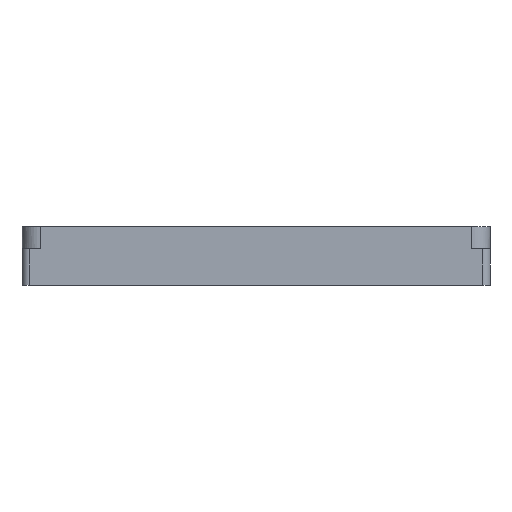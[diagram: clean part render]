
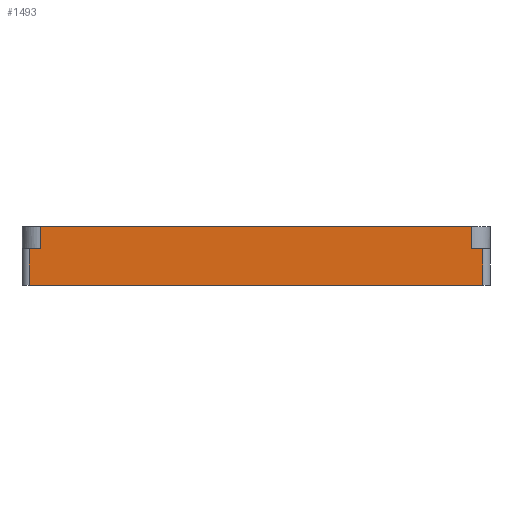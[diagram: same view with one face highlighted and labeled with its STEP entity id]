
A CAD part, left-side view. The second image highlights one B-rep face of the part: STEP entity #1493.
In plain terms, the highlighted planar face has unit normal (-1, 0, 0).
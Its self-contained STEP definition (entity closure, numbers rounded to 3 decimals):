
#44 = PLANE('',#45);
#45 = AXIS2_PLACEMENT_3D('',#46,#47,#48);
#46 = CARTESIAN_POINT('',(-44.,-85.,122.));
#47 = DIRECTION('',(-0.,-0.,1.));
#48 = DIRECTION('',(1.,0.,0.));
#199 = VERTEX_POINT('',#200);
#200 = CARTESIAN_POINT('',(-84.,-80.,122.));
#215 = CYLINDRICAL_SURFACE('',#216,5.);
#216 = AXIS2_PLACEMENT_3D('',#217,#218,#219);
#217 = CARTESIAN_POINT('',(-79.,-80.,116.));
#218 = DIRECTION('',(-0.,-0.,1.));
#219 = DIRECTION('',(-1.,-0.,-0.));
#227 = EDGE_CURVE('',#199,#228,#230,.T.);
#228 = VERTEX_POINT('',#229);
#229 = CARTESIAN_POINT('',(-84.,37.,122.));
#230 = SURFACE_CURVE('',#231,(#235,#242),.PCURVE_S1.);
#231 = LINE('',#232,#233);
#232 = CARTESIAN_POINT('',(-84.,-85.,122.));
#233 = VECTOR('',#234,1.);
#234 = DIRECTION('',(-0.,1.,0.));
#235 = PCURVE('',#44,#236);
#236 = DEFINITIONAL_REPRESENTATION('',(#237),#241);
#237 = LINE('',#238,#239);
#238 = CARTESIAN_POINT('',(-40.,0.));
#239 = VECTOR('',#240,1.);
#240 = DIRECTION('',(0.,1.));
#241 = ( GEOMETRIC_REPRESENTATION_CONTEXT(2) 
PARAMETRIC_REPRESENTATION_CONTEXT() REPRESENTATION_CONTEXT('2D SPACE',''
  ) );
#242 = PCURVE('',#243,#248);
#243 = PLANE('',#244);
#244 = AXIS2_PLACEMENT_3D('',#245,#246,#247);
#245 = CARTESIAN_POINT('',(-84.,-85.,116.));
#246 = DIRECTION('',(-1.,-0.,-0.));
#247 = DIRECTION('',(0.,0.,-1.));
#248 = DEFINITIONAL_REPRESENTATION('',(#249),#253);
#249 = LINE('',#250,#251);
#250 = CARTESIAN_POINT('',(-6.,-0.));
#251 = VECTOR('',#252,1.);
#252 = DIRECTION('',(-0.,-1.));
#253 = ( GEOMETRIC_REPRESENTATION_CONTEXT(2) 
PARAMETRIC_REPRESENTATION_CONTEXT() REPRESENTATION_CONTEXT('2D SPACE',''
  ) );
#276 = CYLINDRICAL_SURFACE('',#277,5.);
#277 = AXIS2_PLACEMENT_3D('',#278,#279,#280);
#278 = CARTESIAN_POINT('',(-79.,37.,116.));
#279 = DIRECTION('',(-0.,-0.,1.));
#280 = DIRECTION('',(-1.,-0.,-0.));
#1415 = VERTEX_POINT('',#1416);
#1416 = CARTESIAN_POINT('',(-84.,-80.,116.));
#1431 = PLANE('',#1432);
#1432 = AXIS2_PLACEMENT_3D('',#1433,#1434,#1435);
#1433 = CARTESIAN_POINT('',(-78.,-85.,116.));
#1434 = DIRECTION('',(0.,0.,1.));
#1435 = DIRECTION('',(1.,0.,0.));
#1446 = EDGE_CURVE('',#1415,#199,#1447,.T.);
#1447 = SURFACE_CURVE('',#1448,(#1452,#1459),.PCURVE_S1.);
#1448 = LINE('',#1449,#1450);
#1449 = CARTESIAN_POINT('',(-84.,-80.,116.));
#1450 = VECTOR('',#1451,1.);
#1451 = DIRECTION('',(-0.,-0.,1.));
#1452 = PCURVE('',#215,#1453);
#1453 = DEFINITIONAL_REPRESENTATION('',(#1454),#1458);
#1454 = LINE('',#1455,#1456);
#1455 = CARTESIAN_POINT('',(0.,0.));
#1456 = VECTOR('',#1457,1.);
#1457 = DIRECTION('',(0.,1.));
#1458 = ( GEOMETRIC_REPRESENTATION_CONTEXT(2) 
PARAMETRIC_REPRESENTATION_CONTEXT() REPRESENTATION_CONTEXT('2D SPACE',''
  ) );
#1459 = PCURVE('',#243,#1460);
#1460 = DEFINITIONAL_REPRESENTATION('',(#1461),#1465);
#1461 = LINE('',#1462,#1463);
#1462 = CARTESIAN_POINT('',(-0.,-5.));
#1463 = VECTOR('',#1464,1.);
#1464 = DIRECTION('',(-1.,-0.));
#1465 = ( GEOMETRIC_REPRESENTATION_CONTEXT(2) 
PARAMETRIC_REPRESENTATION_CONTEXT() REPRESENTATION_CONTEXT('2D SPACE',''
  ) );
#1493 = ADVANCED_FACE('',(#1494),#243,.T.);
#1494 = FACE_BOUND('',#1495,.F.);
#1495 = EDGE_LOOP('',(#1496,#1497,#1498,#1521,#1549,#1577,#1605,#1633));
#1496 = ORIENTED_EDGE('',*,*,#227,.F.);
#1497 = ORIENTED_EDGE('',*,*,#1446,.F.);
#1498 = ORIENTED_EDGE('',*,*,#1499,.F.);
#1499 = EDGE_CURVE('',#1500,#1415,#1502,.T.);
#1500 = VERTEX_POINT('',#1501);
#1501 = CARTESIAN_POINT('',(-84.,-83.,116.));
#1502 = SURFACE_CURVE('',#1503,(#1507,#1514),.PCURVE_S1.);
#1503 = LINE('',#1504,#1505);
#1504 = CARTESIAN_POINT('',(-84.,-85.,116.));
#1505 = VECTOR('',#1506,1.);
#1506 = DIRECTION('',(-0.,1.,0.));
#1507 = PCURVE('',#243,#1508);
#1508 = DEFINITIONAL_REPRESENTATION('',(#1509),#1513);
#1509 = LINE('',#1510,#1511);
#1510 = CARTESIAN_POINT('',(-0.,-0.));
#1511 = VECTOR('',#1512,1.);
#1512 = DIRECTION('',(-0.,-1.));
#1513 = ( GEOMETRIC_REPRESENTATION_CONTEXT(2) 
PARAMETRIC_REPRESENTATION_CONTEXT() REPRESENTATION_CONTEXT('2D SPACE',''
  ) );
#1514 = PCURVE('',#1431,#1515);
#1515 = DEFINITIONAL_REPRESENTATION('',(#1516),#1520);
#1516 = LINE('',#1517,#1518);
#1517 = CARTESIAN_POINT('',(-6.,0.));
#1518 = VECTOR('',#1519,1.);
#1519 = DIRECTION('',(-0.,1.));
#1520 = ( GEOMETRIC_REPRESENTATION_CONTEXT(2) 
PARAMETRIC_REPRESENTATION_CONTEXT() REPRESENTATION_CONTEXT('2D SPACE',''
  ) );
#1521 = ORIENTED_EDGE('',*,*,#1522,.F.);
#1522 = EDGE_CURVE('',#1523,#1500,#1525,.T.);
#1523 = VERTEX_POINT('',#1524);
#1524 = CARTESIAN_POINT('',(-84.,-83.,106.));
#1525 = SURFACE_CURVE('',#1526,(#1530,#1537),.PCURVE_S1.);
#1526 = LINE('',#1527,#1528);
#1527 = CARTESIAN_POINT('',(-84.,-83.,106.));
#1528 = VECTOR('',#1529,1.);
#1529 = DIRECTION('',(-0.,-0.,1.));
#1530 = PCURVE('',#243,#1531);
#1531 = DEFINITIONAL_REPRESENTATION('',(#1532),#1536);
#1532 = LINE('',#1533,#1534);
#1533 = CARTESIAN_POINT('',(10.,-2.));
#1534 = VECTOR('',#1535,1.);
#1535 = DIRECTION('',(-1.,-0.));
#1536 = ( GEOMETRIC_REPRESENTATION_CONTEXT(2) 
PARAMETRIC_REPRESENTATION_CONTEXT() REPRESENTATION_CONTEXT('2D SPACE',''
  ) );
#1537 = PCURVE('',#1538,#1543);
#1538 = CYLINDRICAL_SURFACE('',#1539,2.);
#1539 = AXIS2_PLACEMENT_3D('',#1540,#1541,#1542);
#1540 = CARTESIAN_POINT('',(-82.,-83.,106.));
#1541 = DIRECTION('',(-0.,-0.,1.));
#1542 = DIRECTION('',(-1.,-0.,-0.));
#1543 = DEFINITIONAL_REPRESENTATION('',(#1544),#1548);
#1544 = LINE('',#1545,#1546);
#1545 = CARTESIAN_POINT('',(0.,0.));
#1546 = VECTOR('',#1547,1.);
#1547 = DIRECTION('',(0.,1.));
#1548 = ( GEOMETRIC_REPRESENTATION_CONTEXT(2) 
PARAMETRIC_REPRESENTATION_CONTEXT() REPRESENTATION_CONTEXT('2D SPACE',''
  ) );
#1549 = ORIENTED_EDGE('',*,*,#1550,.T.);
#1550 = EDGE_CURVE('',#1523,#1551,#1553,.T.);
#1551 = VERTEX_POINT('',#1552);
#1552 = CARTESIAN_POINT('',(-84.,40.,106.));
#1553 = SURFACE_CURVE('',#1554,(#1558,#1565),.PCURVE_S1.);
#1554 = LINE('',#1555,#1556);
#1555 = CARTESIAN_POINT('',(-84.,-85.,106.));
#1556 = VECTOR('',#1557,1.);
#1557 = DIRECTION('',(-0.,1.,0.));
#1558 = PCURVE('',#243,#1559);
#1559 = DEFINITIONAL_REPRESENTATION('',(#1560),#1564);
#1560 = LINE('',#1561,#1562);
#1561 = CARTESIAN_POINT('',(10.,-0.));
#1562 = VECTOR('',#1563,1.);
#1563 = DIRECTION('',(-0.,-1.));
#1564 = ( GEOMETRIC_REPRESENTATION_CONTEXT(2) 
PARAMETRIC_REPRESENTATION_CONTEXT() REPRESENTATION_CONTEXT('2D SPACE',''
  ) );
#1565 = PCURVE('',#1566,#1571);
#1566 = PLANE('',#1567);
#1567 = AXIS2_PLACEMENT_3D('',#1568,#1569,#1570);
#1568 = CARTESIAN_POINT('',(-78.,-85.,106.));
#1569 = DIRECTION('',(0.,0.,1.));
#1570 = DIRECTION('',(1.,0.,0.));
#1571 = DEFINITIONAL_REPRESENTATION('',(#1572),#1576);
#1572 = LINE('',#1573,#1574);
#1573 = CARTESIAN_POINT('',(-6.,0.));
#1574 = VECTOR('',#1575,1.);
#1575 = DIRECTION('',(-0.,1.));
#1576 = ( GEOMETRIC_REPRESENTATION_CONTEXT(2) 
PARAMETRIC_REPRESENTATION_CONTEXT() REPRESENTATION_CONTEXT('2D SPACE',''
  ) );
#1577 = ORIENTED_EDGE('',*,*,#1578,.T.);
#1578 = EDGE_CURVE('',#1551,#1579,#1581,.T.);
#1579 = VERTEX_POINT('',#1580);
#1580 = CARTESIAN_POINT('',(-84.,40.,116.));
#1581 = SURFACE_CURVE('',#1582,(#1586,#1593),.PCURVE_S1.);
#1582 = LINE('',#1583,#1584);
#1583 = CARTESIAN_POINT('',(-84.,40.,106.));
#1584 = VECTOR('',#1585,1.);
#1585 = DIRECTION('',(-0.,-0.,1.));
#1586 = PCURVE('',#243,#1587);
#1587 = DEFINITIONAL_REPRESENTATION('',(#1588),#1592);
#1588 = LINE('',#1589,#1590);
#1589 = CARTESIAN_POINT('',(10.,-125.));
#1590 = VECTOR('',#1591,1.);
#1591 = DIRECTION('',(-1.,-0.));
#1592 = ( GEOMETRIC_REPRESENTATION_CONTEXT(2) 
PARAMETRIC_REPRESENTATION_CONTEXT() REPRESENTATION_CONTEXT('2D SPACE',''
  ) );
#1593 = PCURVE('',#1594,#1599);
#1594 = CYLINDRICAL_SURFACE('',#1595,2.);
#1595 = AXIS2_PLACEMENT_3D('',#1596,#1597,#1598);
#1596 = CARTESIAN_POINT('',(-82.,40.,106.));
#1597 = DIRECTION('',(-0.,-0.,1.));
#1598 = DIRECTION('',(-1.,-0.,-0.));
#1599 = DEFINITIONAL_REPRESENTATION('',(#1600),#1604);
#1600 = LINE('',#1601,#1602);
#1601 = CARTESIAN_POINT('',(-0.,0.));
#1602 = VECTOR('',#1603,1.);
#1603 = DIRECTION('',(-0.,1.));
#1604 = ( GEOMETRIC_REPRESENTATION_CONTEXT(2) 
PARAMETRIC_REPRESENTATION_CONTEXT() REPRESENTATION_CONTEXT('2D SPACE',''
  ) );
#1605 = ORIENTED_EDGE('',*,*,#1606,.F.);
#1606 = EDGE_CURVE('',#1607,#1579,#1609,.T.);
#1607 = VERTEX_POINT('',#1608);
#1608 = CARTESIAN_POINT('',(-84.,37.,116.));
#1609 = SURFACE_CURVE('',#1610,(#1614,#1621),.PCURVE_S1.);
#1610 = LINE('',#1611,#1612);
#1611 = CARTESIAN_POINT('',(-84.,-85.,116.));
#1612 = VECTOR('',#1613,1.);
#1613 = DIRECTION('',(-0.,1.,0.));
#1614 = PCURVE('',#243,#1615);
#1615 = DEFINITIONAL_REPRESENTATION('',(#1616),#1620);
#1616 = LINE('',#1617,#1618);
#1617 = CARTESIAN_POINT('',(-0.,-0.));
#1618 = VECTOR('',#1619,1.);
#1619 = DIRECTION('',(-0.,-1.));
#1620 = ( GEOMETRIC_REPRESENTATION_CONTEXT(2) 
PARAMETRIC_REPRESENTATION_CONTEXT() REPRESENTATION_CONTEXT('2D SPACE',''
  ) );
#1621 = PCURVE('',#1622,#1627);
#1622 = PLANE('',#1623);
#1623 = AXIS2_PLACEMENT_3D('',#1624,#1625,#1626);
#1624 = CARTESIAN_POINT('',(-78.,-85.,116.));
#1625 = DIRECTION('',(0.,0.,1.));
#1626 = DIRECTION('',(1.,0.,0.));
#1627 = DEFINITIONAL_REPRESENTATION('',(#1628),#1632);
#1628 = LINE('',#1629,#1630);
#1629 = CARTESIAN_POINT('',(-6.,0.));
#1630 = VECTOR('',#1631,1.);
#1631 = DIRECTION('',(-0.,1.));
#1632 = ( GEOMETRIC_REPRESENTATION_CONTEXT(2) 
PARAMETRIC_REPRESENTATION_CONTEXT() REPRESENTATION_CONTEXT('2D SPACE',''
  ) );
#1633 = ORIENTED_EDGE('',*,*,#1634,.T.);
#1634 = EDGE_CURVE('',#1607,#228,#1635,.T.);
#1635 = SURFACE_CURVE('',#1636,(#1640,#1647),.PCURVE_S1.);
#1636 = LINE('',#1637,#1638);
#1637 = CARTESIAN_POINT('',(-84.,37.,116.));
#1638 = VECTOR('',#1639,1.);
#1639 = DIRECTION('',(-0.,-0.,1.));
#1640 = PCURVE('',#243,#1641);
#1641 = DEFINITIONAL_REPRESENTATION('',(#1642),#1646);
#1642 = LINE('',#1643,#1644);
#1643 = CARTESIAN_POINT('',(-0.,-122.));
#1644 = VECTOR('',#1645,1.);
#1645 = DIRECTION('',(-1.,-0.));
#1646 = ( GEOMETRIC_REPRESENTATION_CONTEXT(2) 
PARAMETRIC_REPRESENTATION_CONTEXT() REPRESENTATION_CONTEXT('2D SPACE',''
  ) );
#1647 = PCURVE('',#276,#1648);
#1648 = DEFINITIONAL_REPRESENTATION('',(#1649),#1653);
#1649 = LINE('',#1650,#1651);
#1650 = CARTESIAN_POINT('',(-0.,0.));
#1651 = VECTOR('',#1652,1.);
#1652 = DIRECTION('',(-0.,1.));
#1653 = ( GEOMETRIC_REPRESENTATION_CONTEXT(2) 
PARAMETRIC_REPRESENTATION_CONTEXT() REPRESENTATION_CONTEXT('2D SPACE',''
  ) );
